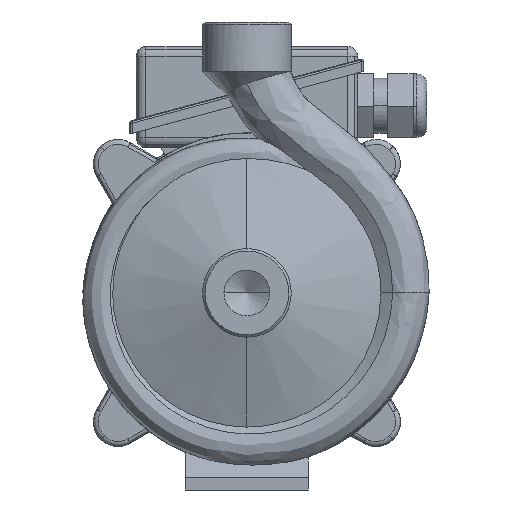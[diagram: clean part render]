
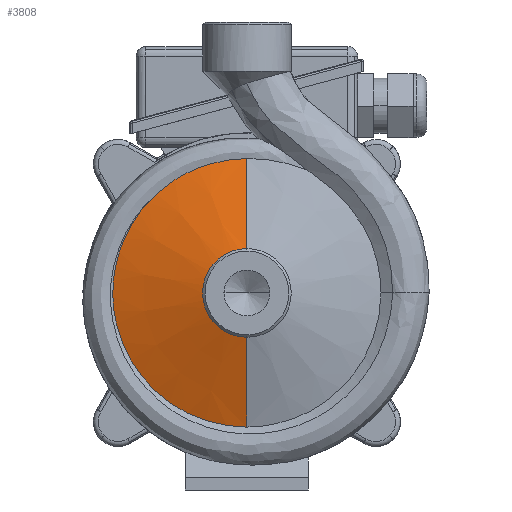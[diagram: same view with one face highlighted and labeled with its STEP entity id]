
A CAD part, front view. The second image highlights one B-rep face of the part: STEP entity #3808.
In plain terms, the highlighted conical face has half-angle 71.565 degrees and reference radius 37.5 mm.
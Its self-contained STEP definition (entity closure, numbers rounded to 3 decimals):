
#3808=ADVANCED_FACE('',(#7486),#7487,.T.);
#7486=FACE_OUTER_BOUND('',#12694,.T.);
#7487=CONICAL_SURFACE('',#12695,37.5,1.249);
#12694=EDGE_LOOP('',(#19841,#19842,#19843,#19844,#19845));
#12695=AXIS2_PLACEMENT_3D('',#19846,#19847,#19848);
#19841=ORIENTED_EDGE('',*,*,#21469,.F.);
#19842=ORIENTED_EDGE('',*,*,#21470,.T.);
#19843=ORIENTED_EDGE('',*,*,#21471,.F.);
#19844=ORIENTED_EDGE('',*,*,#21472,.F.);
#19845=ORIENTED_EDGE('',*,*,#21473,.F.);
#19846=CARTESIAN_POINT('',(0.0,0.0,-14.5));
#19847=DIRECTION('',(-0.0,0.0,1.0));
#19848=DIRECTION('',(0.0,-1.0,0.0));
#21469=EDGE_CURVE('',#22397,#22398,#22399,.T.);
#21470=EDGE_CURVE('',#22397,#22400,#22401,.T.);
#21471=EDGE_CURVE('',#22402,#22400,#22403,.T.);
#21472=EDGE_CURVE('',#22404,#22402,#22405,.T.);
#21473=EDGE_CURVE('',#22398,#22404,#22406,.T.);
#22397=VERTEX_POINT('',#23625);
#22398=VERTEX_POINT('',#23626);
#22399=LINE('',#23627,#23628);
#22400=VERTEX_POINT('',#23629);
#22401=CIRCLE('',#23630,18.0);
#22402=VERTEX_POINT('',#23631);
#22403=LINE('',#23632,#23633);
#22404=VERTEX_POINT('',#23634);
#22405=B_SPLINE_CURVE_WITH_KNOTS('',3,(#23635,#23636,#23637,#23638,#23639,#23640,#23641,#23642,#23643,#23644,#23645,#23646,#23647,#23648),.UNSPECIFIED.,.F.,.F.,(4,2,2,2,2,2,4),(-76.402,-60.894,-46.821,-31.212,-17.88,-7.51,0.0),.UNSPECIFIED.);
#22406=B_SPLINE_CURVE_WITH_KNOTS('',3,(#23649,#23650,#23651,#23652,#23653,#23654,#23655,#23656,#23657,#23658,#23659,#23660,#23661,#23662,#23663,#23664,#23665,#23666,#23667,#23668,#23669,#23670,#23671,#23672,#23673,#23674,#23675,#23676,#23677,#23678,#23679,#23680,#23681,#23682,#23683,#23684,#23685,#23686,#23687,#23688),.UNSPECIFIED.,.F.,.F.,(4,2,2,2,2,2,2,2,2,2,2,2,2,2,2,2,2,2,2,4),(-153.394,-149.346,-140.425,-131.747,-125.93,-120.952,-117.238,-113.31,-99.328,-92.099,-84.26,-76.84,-65.968,-58.921,-54.665,-42.452,-33.228,-27.447,-15.799,0.0),.UNSPECIFIED.);
#23625=CARTESIAN_POINT('',(0.0,-18.0,-21.0));
#23626=CARTESIAN_POINT('',(0.,-54.464,-8.845));
#23627=CARTESIAN_POINT('',(0.,-37.5,-14.5));
#23628=VECTOR('',#26770,1.0);
#23629=CARTESIAN_POINT('',(0.,18.0,-21.0));
#23630=AXIS2_PLACEMENT_3D('',#26771,#26772,#26773);
#23631=CARTESIAN_POINT('',(0.,54.579,-8.807));
#23632=CARTESIAN_POINT('',(0.,37.5,-14.5));
#23633=VECTOR('',#26774,1.0);
#23634=CARTESIAN_POINT('',(36.724,40.144,-8.864));
#23635=CARTESIAN_POINT('',(36.724,40.144,-8.864));
#23636=CARTESIAN_POINT('',(33.132,43.448,-8.86));
#23637=CARTESIAN_POINT('',(28.975,46.434,-8.838));
#23638=CARTESIAN_POINT('',(20.111,50.811,-8.852));
#23639=CARTESIAN_POINT('',(15.539,52.358,-8.863));
#23640=CARTESIAN_POINT('',(5.798,54.421,-8.841));
#23641=CARTESIAN_POINT('',(0.548,54.819,-8.813));
#23642=CARTESIAN_POINT('',(-9.346,54.127,-8.754));
#23643=CARTESIAN_POINT('',(-13.771,53.275,-8.721));
#23644=CARTESIAN_POINT('',(-21.592,51.041,-8.565));
#23645=CARTESIAN_POINT('',(-25.149,49.777,-8.443));
#23646=CARTESIAN_POINT('',(-30.409,47.529,-8.209));
#23647=CARTESIAN_POINT('',(-32.507,46.484,-8.111));
#23648=CARTESIAN_POINT('',(-34.598,45.109,-8.05));
#23649=CARTESIAN_POINT('',(-54.464,0.,-8.845));
#23650=CARTESIAN_POINT('',(-54.43,-1.892,-8.857));
#23651=CARTESIAN_POINT('',(-54.313,-3.783,-8.863));
#23652=CARTESIAN_POINT('',(-53.655,-9.812,-8.872));
#23653=CARTESIAN_POINT('',(-52.777,-13.892,-8.862));
#23654=CARTESIAN_POINT('',(-50.12,-21.684,-8.847));
#23655=CARTESIAN_POINT('',(-48.372,-25.39,-8.841));
#23656=CARTESIAN_POINT('',(-44.723,-31.173,-8.851));
#23657=CARTESIAN_POINT('',(-43.06,-33.394,-8.859));
#23658=CARTESIAN_POINT('',(-39.721,-37.248,-8.866));
#23659=CARTESIAN_POINT('',(-38.065,-38.938,-8.866));
#23660=CARTESIAN_POINT('',(-35.018,-41.69,-8.861));
#23661=CARTESIAN_POINT('',(-33.659,-42.81,-8.857));
#23662=CARTESIAN_POINT('',(-30.766,-44.966,-8.849));
#23663=CARTESIAN_POINT('',(-29.215,-46.003,-8.845));
#23664=CARTESIAN_POINT('',(-21.928,-50.29,-8.845));
#23665=CARTESIAN_POINT('',(-15.333,-52.6,-8.871));
#23666=CARTESIAN_POINT('',(-5.402,-54.282,-8.853));
#23667=CARTESIAN_POINT('',(-1.88,-54.56,-8.842));
#23668=CARTESIAN_POINT('',(5.595,-54.294,-8.852));
#23669=CARTESIAN_POINT('',(9.524,-53.708,-8.865));
#23670=CARTESIAN_POINT('',(16.887,-51.848,-8.866));
#23671=CARTESIAN_POINT('',(20.422,-50.591,-8.856));
#23672=CARTESIAN_POINT('',(28.624,-46.671,-8.839));
#23673=CARTESIAN_POINT('',(32.965,-43.593,-8.861));
#23674=CARTESIAN_POINT('',(39.126,-37.938,-8.867));
#23675=CARTESIAN_POINT('',(41.38,-35.487,-8.862));
#23676=CARTESIAN_POINT('',(44.591,-31.306,-8.851));
#23677=CARTESIAN_POINT('',(45.721,-29.659,-8.846));
#23678=CARTESIAN_POINT('',(49.669,-23.074,-8.843));
#23679=CARTESIAN_POINT('',(51.781,-17.575,-8.869));
#23680=CARTESIAN_POINT('',(53.998,-7.974,-8.86));
#23681=CARTESIAN_POINT('',(54.531,-3.591,-8.842));
#23682=CARTESIAN_POINT('',(54.411,3.53,-8.848));
#23683=CARTESIAN_POINT('',(54.136,6.292,-8.856));
#23684=CARTESIAN_POINT('',(52.726,14.455,-8.87));
#23685=CARTESIAN_POINT('',(50.962,19.903,-8.856));
#23686=CARTESIAN_POINT('',(45.088,31.503,-8.836));
#23687=CARTESIAN_POINT('',(40.601,36.579,-8.869));
#23688=CARTESIAN_POINT('',(36.724,40.144,-8.864));
#26770=DIRECTION('',(0.,-0.949,0.316));
#26771=CARTESIAN_POINT('',(0.0,0.0,-21.0));
#26772=DIRECTION('',(0.0,0.0,1.0));
#26773=DIRECTION('',(0.0,-1.0,0.0));
#26774=DIRECTION('',(0.,-0.949,-0.316));
